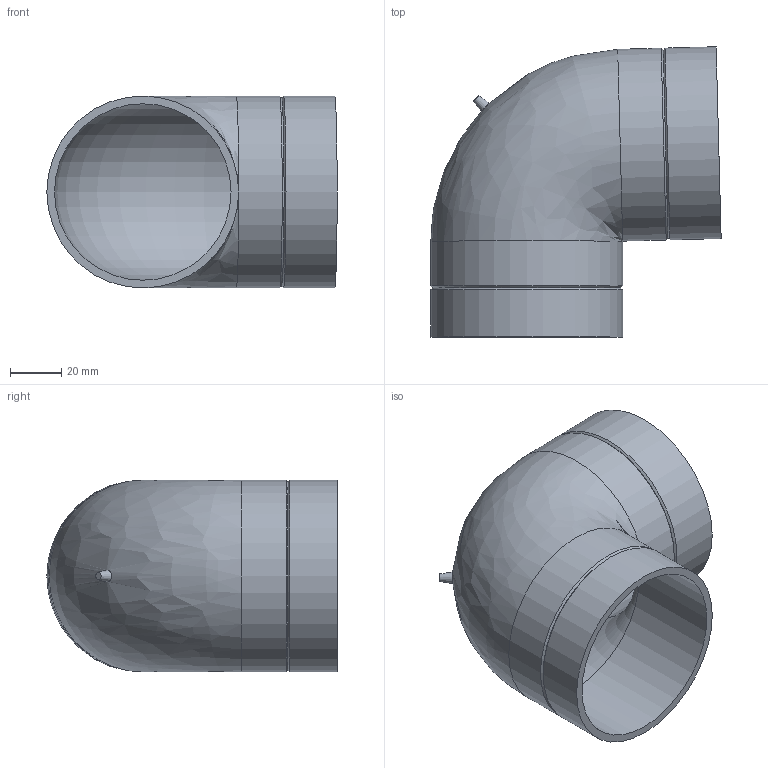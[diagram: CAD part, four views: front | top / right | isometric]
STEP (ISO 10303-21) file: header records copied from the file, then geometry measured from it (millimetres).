
FILE_DESCRIPTION(/* description */ (''),/* implementation_level */ '2;1');
FILE_NAME(/* name */ 'Z:\Geberit\Export\NewStep\365088.stp',/* time_stamp */ '2014-04-02T07:33:24+02:00',/* author */ ('nelson'),/* organization */ (''),/* preprocessor_version */ 'ST-DEVELOPER v15.2',/* originating_system */ 'Autodesk Inventor 2014',/* authorisation */ '');
FILE_SCHEMA (('AUTOMOTIVE_DESIGN { 1 0 10303 214 3 1 1 }'));
Length unit declared in the file: millimetre
Products named in the file (1): 365088
Bounding box: 113.48 x 113.49 x 75 mm (x, y, z)
Volume: 91193.9 mm3; surface area: 62315.4 mm2
Topology: 1 solids, 1 shells, 16 faces, 34 edges, 19 vertices
Faces by surface type: cylinder 6, cone 5, plane 3, torus 1, bspline 1
Full cylindrical faces by diameter (mm): 69 x2, 75 x4
Entity records: 459 total; most frequent: CARTESIAN_POINT 169, DIRECTION 62, ORIENTED_EDGE 32, EDGE_LOOP 31, AXIS2_PLACEMENT_3D 31, FACE_BOUND 18, EDGE_CURVE 16, ADVANCED_FACE 16
